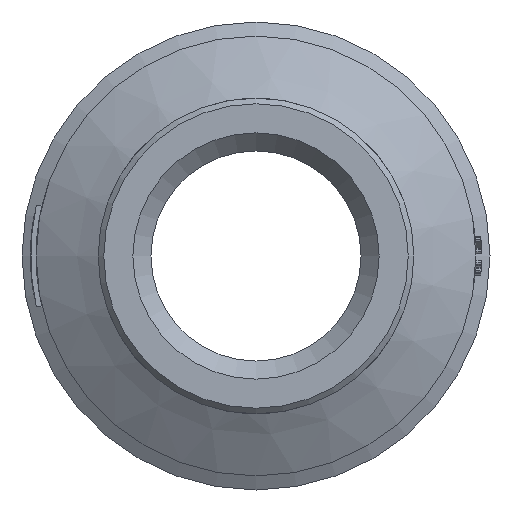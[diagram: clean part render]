
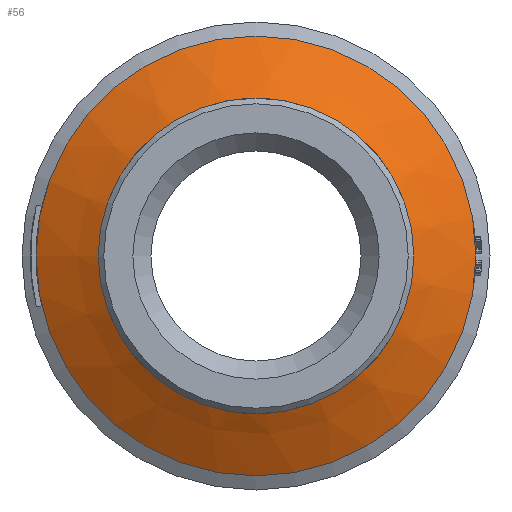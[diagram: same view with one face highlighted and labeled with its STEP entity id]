
A CAD part, front view. The second image highlights one B-rep face of the part: STEP entity #56.
In plain terms, the highlighted conical face has half-angle 60 degrees and reference radius 15.875 mm.
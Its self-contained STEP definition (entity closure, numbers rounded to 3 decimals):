
#56=ADVANCED_FACE('',(#316,#318),#320,.T.);
#316=FACE_BOUND('',#317,.T.);
#317=EDGE_LOOP('',(#1392,#1393,#1394,#1395,#1396,#1397,#1398,#1399,#1400));
#318=FACE_OUTER_BOUND('',#319,.T.);
#319=EDGE_LOOP('',(#1401));
#320=CONICAL_SURFACE('',#321,15.875,1.047);
#321=AXIS2_PLACEMENT_3D('',#322,#323,#324);
#322=CARTESIAN_POINT('',(0.,-19.407,0.));
#323=DIRECTION('',(0.,1.,0.));
#324=DIRECTION('',(1.,0.,0.));
#1392=ORIENTED_EDGE('',*,*,#2529,.F.);
#1393=ORIENTED_EDGE('',*,*,#2530,.F.);
#1394=ORIENTED_EDGE('',*,*,#2520,.F.);
#1395=ORIENTED_EDGE('',*,*,#2531,.F.);
#1396=ORIENTED_EDGE('',*,*,#2532,.F.);
#1397=ORIENTED_EDGE('',*,*,#2533,.F.);
#1398=ORIENTED_EDGE('',*,*,#2534,.F.);
#1399=ORIENTED_EDGE('',*,*,#2516,.F.);
#1400=ORIENTED_EDGE('',*,*,#2528,.F.);
#1401=ORIENTED_EDGE('',*,*,#2535,.F.);
#2516=EDGE_CURVE('',#2976,#2978,#2979,.T.);
#2520=EDGE_CURVE('',#2984,#2986,#2987,.T.);
#2528=EDGE_CURVE('',#2998,#2976,#3000,.T.);
#2529=EDGE_CURVE('',#3001,#2998,#3002,.F.);
#2530=EDGE_CURVE('',#2986,#3001,#3003,.F.);
#2531=EDGE_CURVE('',#3004,#2984,#3005,.T.);
#2532=EDGE_CURVE('',#3006,#3004,#3007,.F.);
#2533=EDGE_CURVE('',#3008,#3006,#3009,.F.);
#2534=EDGE_CURVE('',#2978,#3008,#3010,.F.);
#2535=EDGE_CURVE('',#3011,#3011,#3012,.F.);
#2976=VERTEX_POINT('',#3766);
#2978=VERTEX_POINT('',#3770);
#2979=CIRCLE('',#3771,14.);
#2984=VERTEX_POINT('',#3784);
#2986=VERTEX_POINT('',#3788);
#2987=CIRCLE('',#3789,14.);
#2998=VERTEX_POINT('',#3824);
#3000=B_SPLINE_CURVE_WITH_KNOTS('',3,
(#3828,#3829,#3830,#3831,#3832,#3833,#3834),
.UNSPECIFIED.,.F.,.F.,
(4,1,1,1,4),
(0.,0.238,0.484,0.738,1.),
.UNSPECIFIED.);
#3001=VERTEX_POINT('',#3835);
#3002=CIRCLE('',#3836,12.25);
#3003=B_SPLINE_CURVE_WITH_KNOTS('',3,
(#3840,#3841,#3842,#3843,#3844,#3845,#3846),
.UNSPECIFIED.,.F.,.F.,
(4,1,1,1,4),
(0.,0.238,0.484,0.738,1.),
.UNSPECIFIED.);
#3004=VERTEX_POINT('',#3847);
#3005=B_SPLINE_CURVE_WITH_KNOTS('',3,
(#3848,#3849,#3850,#3851,#3852,#3853,#3854),
.UNSPECIFIED.,.F.,.F.,
(4,1,1,1,4),
(0.,0.238,0.484,0.738,1.),
.UNSPECIFIED.);
#3006=VERTEX_POINT('',#3855);
#3007=CIRCLE('',#3856,12.25);
#3008=VERTEX_POINT('',#3860);
#3009=CIRCLE('',#3861,12.25);
#3010=B_SPLINE_CURVE_WITH_KNOTS('',3,
(#3865,#3866,#3867,#3868,#3869,#3870,#3871),
.UNSPECIFIED.,.F.,.F.,
(4,1,1,1,4),
(0.,0.238,0.484,0.738,1.),
.UNSPECIFIED.);
#3011=VERTEX_POINT('',#3872);
#3012=CIRCLE('',#3873,19.5);
#3766=CARTESIAN_POINT('',(2.5,-20.49,13.775));
#3770=CARTESIAN_POINT('',(-2.5,-20.49,13.775));
#3771=AXIS2_PLACEMENT_3D('',#3772,#3773,#3774);
#3772=CARTESIAN_POINT('',(0.,-20.49,0.));
#3773=DIRECTION('',(0.,-1.,0.));
#3774=DIRECTION('',(0.179,0.,0.984));
#3784=CARTESIAN_POINT('',(-2.5,-20.49,-13.775));
#3788=CARTESIAN_POINT('',(2.5,-20.49,-13.775));
#3789=AXIS2_PLACEMENT_3D('',#3790,#3791,#3792);
#3790=CARTESIAN_POINT('',(0.,-20.49,0.));
#3791=DIRECTION('',(0.,-1.,0.));
#3792=DIRECTION('',(-0.179,0.,-0.984));
#3824=CARTESIAN_POINT('',(3.009,-21.5,11.875));
#3828=CARTESIAN_POINT('',(3.009,-21.5,11.875));
#3829=CARTESIAN_POINT('',(2.969,-21.421,12.026));
#3830=CARTESIAN_POINT('',(2.886,-21.26,12.334));
#3831=CARTESIAN_POINT('',(2.761,-21.012,12.802));
#3832=CARTESIAN_POINT('',(2.632,-20.754,13.284));
#3833=CARTESIAN_POINT('',(2.544,-20.579,13.61));
#3834=CARTESIAN_POINT('',(2.5,-20.49,13.775));
#3835=CARTESIAN_POINT('',(3.009,-21.5,-11.875));
#3836=AXIS2_PLACEMENT_3D('',#3837,#3838,#3839);
#3837=CARTESIAN_POINT('',(0.,-21.5,0.));
#3838=DIRECTION('',(0.,1.,0.));
#3839=DIRECTION('',(0.246,0.,0.969));
#3840=CARTESIAN_POINT('',(3.009,-21.5,-11.875));
#3841=CARTESIAN_POINT('',(2.969,-21.421,-12.026));
#3842=CARTESIAN_POINT('',(2.886,-21.26,-12.334));
#3843=CARTESIAN_POINT('',(2.761,-21.012,-12.802));
#3844=CARTESIAN_POINT('',(2.632,-20.754,-13.284));
#3845=CARTESIAN_POINT('',(2.544,-20.579,-13.61));
#3846=CARTESIAN_POINT('',(2.5,-20.49,-13.775));
#3847=CARTESIAN_POINT('',(-3.009,-21.5,-11.875));
#3848=CARTESIAN_POINT('',(-3.009,-21.5,-11.875));
#3849=CARTESIAN_POINT('',(-2.969,-21.421,-12.026));
#3850=CARTESIAN_POINT('',(-2.886,-21.26,-12.334));
#3851=CARTESIAN_POINT('',(-2.761,-21.012,-12.802));
#3852=CARTESIAN_POINT('',(-2.632,-20.754,-13.284));
#3853=CARTESIAN_POINT('',(-2.544,-20.579,-13.61));
#3854=CARTESIAN_POINT('',(-2.5,-20.49,-13.775));
#3855=CARTESIAN_POINT('',(-12.25,-21.5,0.));
#3856=AXIS2_PLACEMENT_3D('',#3857,#3858,#3859);
#3857=CARTESIAN_POINT('',(0.,-21.5,0.));
#3858=DIRECTION('',(0.,1.,0.));
#3859=DIRECTION('',(-0.246,0.,-0.969));
#3860=CARTESIAN_POINT('',(-3.009,-21.5,11.875));
#3861=AXIS2_PLACEMENT_3D('',#3862,#3863,#3864);
#3862=CARTESIAN_POINT('',(0.,-21.5,0.));
#3863=DIRECTION('',(0.,1.,0.));
#3864=DIRECTION('',(-1.,0.,0.));
#3865=CARTESIAN_POINT('',(-3.009,-21.5,11.875));
#3866=CARTESIAN_POINT('',(-2.969,-21.421,12.026));
#3867=CARTESIAN_POINT('',(-2.886,-21.26,12.334));
#3868=CARTESIAN_POINT('',(-2.761,-21.012,12.802));
#3869=CARTESIAN_POINT('',(-2.632,-20.754,13.284));
#3870=CARTESIAN_POINT('',(-2.544,-20.579,13.61));
#3871=CARTESIAN_POINT('',(-2.5,-20.49,13.775));
#3872=CARTESIAN_POINT('',(-19.5,-17.314,0.));
#3873=AXIS2_PLACEMENT_3D('',#3874,#3875,#3876);
#3874=CARTESIAN_POINT('',(0.,-17.314,0.));
#3875=DIRECTION('',(0.,-1.,0.));
#3876=DIRECTION('',(-1.,0.,0.));
